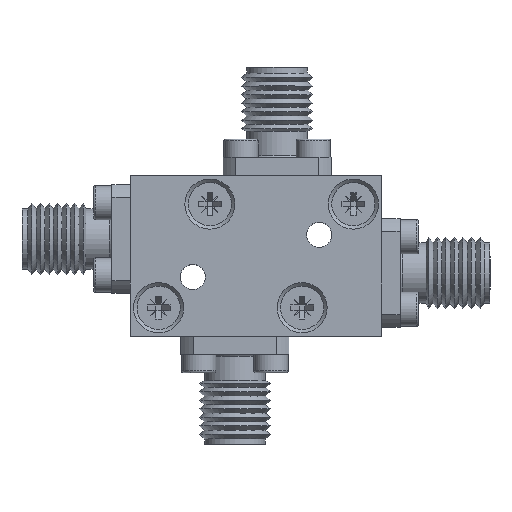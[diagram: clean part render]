
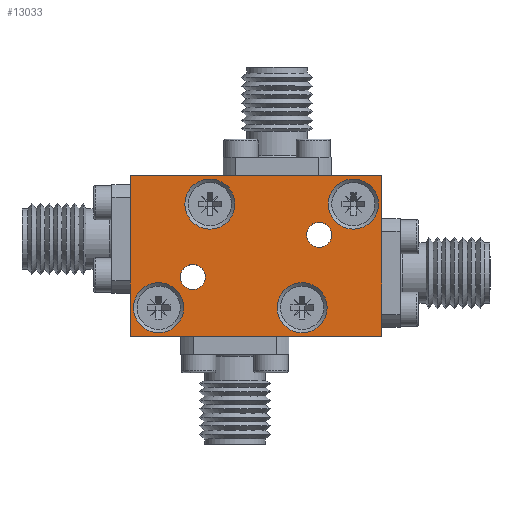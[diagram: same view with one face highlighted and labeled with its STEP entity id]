
A CAD part, top view. The second image highlights one B-rep face of the part: STEP entity #13033.
In plain terms, the highlighted planar face has unit normal (0, 0, 1).
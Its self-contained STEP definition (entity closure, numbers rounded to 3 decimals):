
#1078=LINE('',#19058,#1722);
#1079=LINE('',#19061,#1723);
#1080=LINE('',#19063,#1724);
#1081=LINE('',#19065,#1725);
#1722=VECTOR('',#16127,1000.);
#1723=VECTOR('',#16128,1000.);
#1724=VECTOR('',#16129,1000.);
#1725=VECTOR('',#16130,1000.);
#3570=ORIENTED_EDGE('',*,*,#4854,.T.);
#3571=ORIENTED_EDGE('',*,*,#4855,.T.);
#3572=ORIENTED_EDGE('',*,*,#4856,.T.);
#3573=ORIENTED_EDGE('',*,*,#4857,.T.);
#3574=ORIENTED_EDGE('',*,*,#4858,.T.);
#3575=ORIENTED_EDGE('',*,*,#4859,.T.);
#3576=ORIENTED_EDGE('',*,*,#4860,.T.);
#3577=ORIENTED_EDGE('',*,*,#4861,.T.);
#3578=ORIENTED_EDGE('',*,*,#4862,.F.);
#3579=ORIENTED_EDGE('',*,*,#4863,.F.);
#4854=EDGE_CURVE('',#5702,#5703,#1078,.T.);
#4855=EDGE_CURVE('',#5703,#5704,#1079,.T.);
#4856=EDGE_CURVE('',#5704,#5705,#1080,.T.);
#4857=EDGE_CURVE('',#5705,#5702,#1081,.T.);
#4858=EDGE_CURVE('',#5706,#5706,#6070,.T.);
#4859=EDGE_CURVE('',#5707,#5707,#6071,.T.);
#4860=EDGE_CURVE('',#5708,#5708,#6072,.T.);
#4861=EDGE_CURVE('',#5709,#5709,#6073,.T.);
#4862=EDGE_CURVE('',#5710,#5710,#6074,.T.);
#4863=EDGE_CURVE('',#5711,#5711,#6075,.T.);
#5702=VERTEX_POINT('',#19059);
#5703=VERTEX_POINT('',#19060);
#5704=VERTEX_POINT('',#19062);
#5705=VERTEX_POINT('',#19064);
#5706=VERTEX_POINT('',#19067);
#5707=VERTEX_POINT('',#19069);
#5708=VERTEX_POINT('',#19071);
#5709=VERTEX_POINT('',#19073);
#5710=VERTEX_POINT('',#19075);
#5711=VERTEX_POINT('',#19077);
#6070=CIRCLE('',#13889,2.2);
#6071=CIRCLE('',#13890,2.2);
#6072=CIRCLE('',#13891,2.2);
#6073=CIRCLE('',#13892,2.2);
#6074=CIRCLE('',#13893,1.1);
#6075=CIRCLE('',#13894,1.1);
#6839=EDGE_LOOP('',(#3570,#3571,#3572,#3573));
#6840=EDGE_LOOP('',(#3574));
#6841=EDGE_LOOP('',(#3575));
#6842=EDGE_LOOP('',(#3576));
#6843=EDGE_LOOP('',(#3577));
#6844=EDGE_LOOP('',(#3578));
#6845=EDGE_LOOP('',(#3579));
#7763=FACE_BOUND('',#6839,.T.);
#7764=FACE_BOUND('',#6840,.T.);
#7765=FACE_BOUND('',#6841,.T.);
#7766=FACE_BOUND('',#6842,.T.);
#7767=FACE_BOUND('',#6843,.T.);
#7768=FACE_BOUND('',#6844,.T.);
#7769=FACE_BOUND('',#6845,.T.);
#8327=PLANE('',#13888);
#13033=ADVANCED_FACE('',(#7763,#7764,#7765,#7766,#7767,#7768,#7769),#8327,
 .T.);
#13888=AXIS2_PLACEMENT_3D('',#19057,#16125,#16126);
#13889=AXIS2_PLACEMENT_3D('',#19066,#16131,#16132);
#13890=AXIS2_PLACEMENT_3D('',#19068,#16133,#16134);
#13891=AXIS2_PLACEMENT_3D('',#19070,#16135,#16136);
#13892=AXIS2_PLACEMENT_3D('',#19072,#16137,#16138);
#13893=AXIS2_PLACEMENT_3D('',#19074,#16139,#16140);
#13894=AXIS2_PLACEMENT_3D('',#19076,#16141,#16142);
#16125=DIRECTION('',(0.,0.,1.));
#16126=DIRECTION('',(1.,0.,0.));
#16127=DIRECTION('',(0.,-1.,0.));
#16128=DIRECTION('',(1.,0.,0.));
#16129=DIRECTION('',(0.,1.,0.));
#16130=DIRECTION('',(-1.,0.,0.));
#16131=DIRECTION('',(0.,0.,-1.));
#16132=DIRECTION('',(0.,1.,0.));
#16133=DIRECTION('',(0.,0.,-1.));
#16134=DIRECTION('',(0.,1.,0.));
#16135=DIRECTION('',(0.,0.,-1.));
#16136=DIRECTION('',(0.,1.,0.));
#16137=DIRECTION('',(0.,0.,-1.));
#16138=DIRECTION('',(0.,1.,0.));
#16139=DIRECTION('',(0.,0.,1.));
#16140=DIRECTION('',(1.,0.,0.));
#16141=DIRECTION('',(0.,0.,1.));
#16142=DIRECTION('',(1.,0.,0.));
#19057=CARTESIAN_POINT('',(0.,0.,4.));
#19058=CARTESIAN_POINT('',(-11.05,7.05,4.));
#19059=CARTESIAN_POINT('',(-11.05,7.05,4.));
#19060=CARTESIAN_POINT('',(-11.05,-7.05,4.));
#19061=CARTESIAN_POINT('',(-11.05,-7.05,4.));
#19062=CARTESIAN_POINT('',(11.05,-7.05,4.));
#19063=CARTESIAN_POINT('',(11.05,-7.05,4.));
#19064=CARTESIAN_POINT('',(11.05,7.05,4.));
#19065=CARTESIAN_POINT('',(11.05,7.05,4.));
#19066=CARTESIAN_POINT('',(-4.05,4.55,4.));
#19067=CARTESIAN_POINT('',(-4.05,6.75,4.));
#19068=CARTESIAN_POINT('',(8.55,4.55,4.));
#19069=CARTESIAN_POINT('',(8.55,6.75,4.));
#19070=CARTESIAN_POINT('',(4.05,-4.55,4.));
#19071=CARTESIAN_POINT('',(4.05,-2.35,4.));
#19072=CARTESIAN_POINT('',(-8.55,-4.55,4.));
#19073=CARTESIAN_POINT('',(-8.55,-2.35,4.));
#19074=CARTESIAN_POINT('',(-5.55,-1.85,4.));
#19075=CARTESIAN_POINT('',(-4.45,-1.85,4.));
#19076=CARTESIAN_POINT('',(5.55,1.85,4.));
#19077=CARTESIAN_POINT('',(6.65,1.85,4.));
